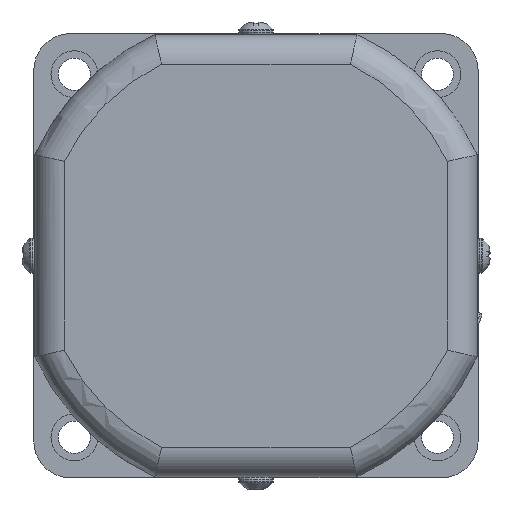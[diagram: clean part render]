
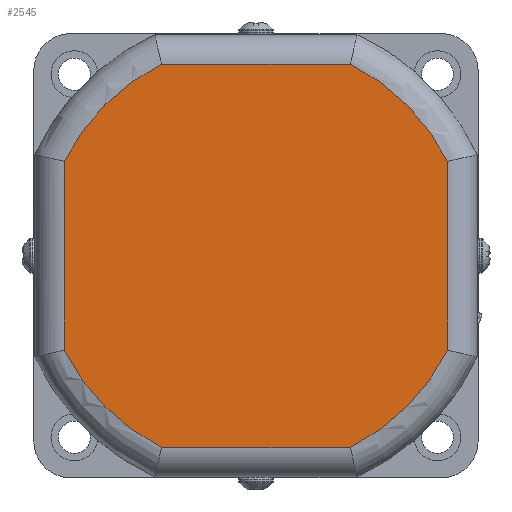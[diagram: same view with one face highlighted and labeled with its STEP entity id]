
A CAD part, left-side view. The second image highlights one B-rep face of the part: STEP entity #2545.
In plain terms, the highlighted planar face has unit normal (-1, 0, 0).
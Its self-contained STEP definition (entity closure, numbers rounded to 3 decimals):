
#2058=CARTESIAN_POINT('',(-23.,-19.108,-38.8));
#2059=VERTEX_POINT('',#2058);
#2086=CARTESIAN_POINT('',(-23.,-38.8,-19.108));
#2087=VERTEX_POINT('',#2086);
#2105=CARTESIAN_POINT('',(-23.,0.,0.));
#2106=DIRECTION('',(1.,0.,0.));
#2107=DIRECTION('',(0.,-0.707,-0.707));
#2108=AXIS2_PLACEMENT_3D('',#2105,#2106,#2107);
#2109=CIRCLE('',#2108,43.25);
#2110=EDGE_CURVE('',#2087,#2059,#2109,.T.);
#2122=CARTESIAN_POINT('',(-23.,-38.8,19.108));
#2123=VERTEX_POINT('',#2122);
#2141=CARTESIAN_POINT('',(-23.,-38.8,19.108));
#2142=DIRECTION('',(0.0,0.0,-1.0));
#2143=VECTOR('',#2142,38.216);
#2144=LINE('',#2141,#2143);
#2145=EDGE_CURVE('',#2123,#2087,#2144,.T.);
#2164=CARTESIAN_POINT('',(-23.,19.108,-38.8));
#2165=VERTEX_POINT('',#2164);
#2190=CARTESIAN_POINT('',(-23.,-19.108,-38.8));
#2191=DIRECTION('',(0.0,1.0,0.0));
#2192=VECTOR('',#2191,38.216);
#2193=LINE('',#2190,#2192);
#2194=EDGE_CURVE('',#2059,#2165,#2193,.T.);
#2206=CARTESIAN_POINT('',(-23.,-19.108,38.8));
#2207=VERTEX_POINT('',#2206);
#2225=CARTESIAN_POINT('',(-23.,0.,0.));
#2226=DIRECTION('',(1.,0.,0.));
#2227=DIRECTION('',(0.,-0.707,0.707));
#2228=AXIS2_PLACEMENT_3D('',#2225,#2226,#2227);
#2229=CIRCLE('',#2228,43.25);
#2230=EDGE_CURVE('',#2207,#2123,#2229,.T.);
#2250=CARTESIAN_POINT('',(-23.,38.8,-19.108));
#2251=VERTEX_POINT('',#2250);
#2277=CARTESIAN_POINT('',(-23.,0.,0.));
#2278=DIRECTION('',(1.0,0.,0.));
#2279=DIRECTION('',(0.,0.707,-0.707));
#2280=AXIS2_PLACEMENT_3D('',#2277,#2278,#2279);
#2281=CIRCLE('',#2280,43.25);
#2282=EDGE_CURVE('',#2165,#2251,#2281,.T.);
#2294=CARTESIAN_POINT('',(-23.,19.108,38.8));
#2295=VERTEX_POINT('',#2294);
#2313=CARTESIAN_POINT('',(-23.,19.108,38.8));
#2314=DIRECTION('',(0.0,-1.0,0.0));
#2315=VECTOR('',#2314,38.216);
#2316=LINE('',#2313,#2315);
#2317=EDGE_CURVE('',#2295,#2207,#2316,.T.);
#2334=CARTESIAN_POINT('',(-23.,38.8,19.108));
#2335=VERTEX_POINT('',#2334);
#2362=CARTESIAN_POINT('',(-23.,38.8,-19.108));
#2363=DIRECTION('',(0.0,0.0,1.0));
#2364=VECTOR('',#2363,38.216);
#2365=LINE('',#2362,#2364);
#2366=EDGE_CURVE('',#2251,#2335,#2365,.T.);
#2377=CARTESIAN_POINT('',(-23.,0.,0.));
#2378=DIRECTION('',(1.0,0.,0.));
#2379=DIRECTION('',(0.,0.707,0.707));
#2380=AXIS2_PLACEMENT_3D('',#2377,#2378,#2379);
#2381=CIRCLE('',#2380,43.25);
#2382=EDGE_CURVE('',#2335,#2295,#2381,.T.);
#2530=CARTESIAN_POINT('',(-23.,0.,0.));
#2531=DIRECTION('',(1.0,0.0,0.0));
#2532=DIRECTION('',(0.0,0.0,-1.0));
#2533=AXIS2_PLACEMENT_3D('',#2530,#2531,#2532);
#2534=PLANE('',#2533);
#2535=ORIENTED_EDGE('',*,*,#2366,.F.);
#2536=ORIENTED_EDGE('',*,*,#2282,.F.);
#2537=ORIENTED_EDGE('',*,*,#2194,.F.);
#2538=ORIENTED_EDGE('',*,*,#2110,.F.);
#2539=ORIENTED_EDGE('',*,*,#2145,.F.);
#2540=ORIENTED_EDGE('',*,*,#2230,.F.);
#2541=ORIENTED_EDGE('',*,*,#2317,.F.);
#2542=ORIENTED_EDGE('',*,*,#2382,.F.);
#2543=EDGE_LOOP('',(#2535,#2536,#2537,#2538,#2539,#2540,#2541,#2542));
#2544=FACE_OUTER_BOUND('',#2543,.T.);
#2545=ADVANCED_FACE('',(#2544),#2534,.F.);
